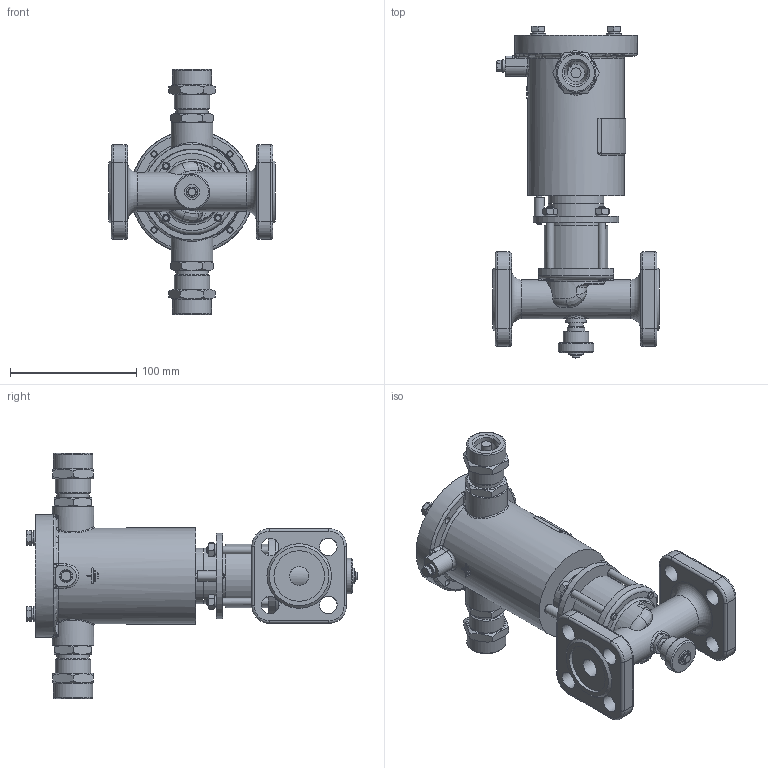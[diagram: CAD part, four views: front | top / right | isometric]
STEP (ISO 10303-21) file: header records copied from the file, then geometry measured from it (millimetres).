
FILE_DESCRIPTION(('STEP AP203'), '1');
FILE_NAME('ÑÅÍÑ-ÏÐ DN15PN25.stp', '2018-10-09T07:55:57', ('Îðëîâ Å.Â.'), ('ÎÎÎ ÍÏÏ Ñåíñîð'), 'ASCON STEP Converter 1.3', 'Kompas 3D', '');
FILE_SCHEMA(('CONFIG_CONTROL_DESIGN','SUPPORT_RESOURCE_SCHEMA'));
Length unit declared in the file: millimetre
Products named in the file (1): 22
Bounding box: 132 x 262.7 x 194 mm (x, y, z)
Volume: 674191.4 mm3; surface area: 214727.4 mm2
Topology: 3 solids, 17 shells, 1986 faces, 5264 edges, 3418 vertices
Faces by surface type: cylinder 1021, plane 736, cone 133, torus 46, bspline 34, extrusion 16
Full cylindrical faces by diameter (mm): 2.459 x4, 4 x8, 4.134 x1, 4.5 x2, 4.917 x4, 5 x2, 6 x20, 6.1 x1, 6.3 x2, 6.4 x1, 6.5 x11, 8 x6, 9 x1, 10 x3, 11 x1, 11.5 x1, 12 x5, 12.376 x1, 13 x2, 14 x9, 15 x4, 16 x1, 16.5 x1, 18.5 x1, 18.632 x2, 20 x3, 22 x2, 22.376 x2, 23.5 x3, 24 x2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
Entity records: 76194 total; most frequent: CARTESIAN_POINT 25655, DIRECTION 11002, ORIENTED_EDGE 10456, EDGE_CURVE 5228, AXIS2_PLACEMENT_3D 4246, VERTEX_POINT 3408, VECTOR 2510, LINE 2494
